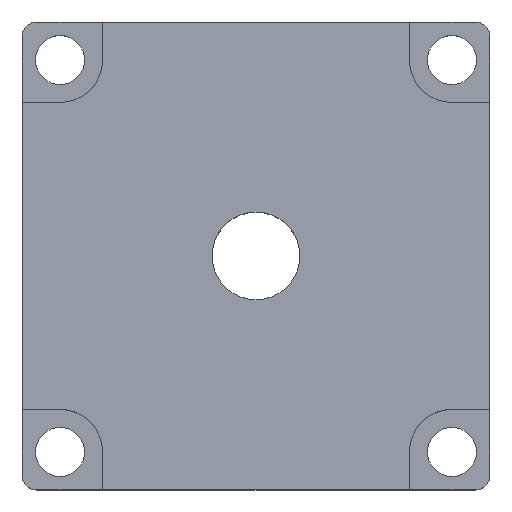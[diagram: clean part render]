
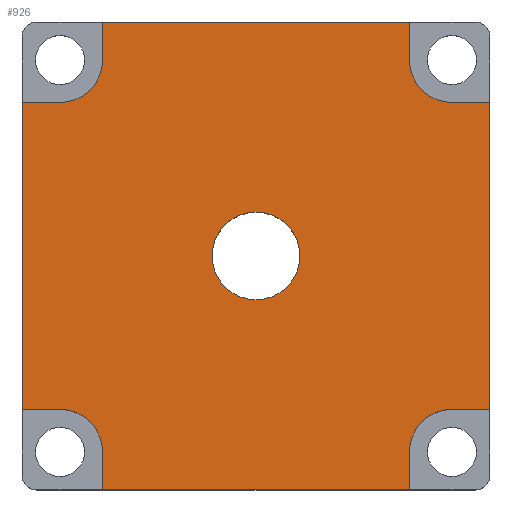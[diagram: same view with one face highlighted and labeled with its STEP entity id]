
A CAD part, top view. The second image highlights one B-rep face of the part: STEP entity #926.
In plain terms, the highlighted planar face has unit normal (0, 0, 1).
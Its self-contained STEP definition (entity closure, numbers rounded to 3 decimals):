
#8 = DIRECTION ( 'NONE',  ( -1., 0., 0. ) ) ;
#22 = ORIENTED_EDGE ( 'NONE', *, *, #400, .T. ) ;
#30 = LINE ( 'NONE', #171, #246 ) ;
#45 = LINE ( 'NONE', #1057, #393 ) ;
#51 = DIRECTION ( 'NONE',  ( -1., 0., 0. ) ) ;
#54 = AXIS2_PLACEMENT_3D ( 'NONE', #843, #846, #948 ) ;
#59 = ORIENTED_EDGE ( 'NONE', *, *, #1032, .F. ) ;
#68 = EDGE_CURVE ( 'NONE', #1224, #591, #1087, .T. ) ;
#69 = LINE ( 'NONE', #486, #923 ) ;
#73 = DIRECTION ( 'NONE',  ( 0., 0., -1. ) ) ;
#103 = ORIENTED_EDGE ( 'NONE', *, *, #575, .T. ) ;
#113 = CARTESIAN_POINT ( 'NONE',  ( 27., 32., 7. ) ) ;
#155 = VERTEX_POINT ( 'NONE', #442 ) ;
#158 = VERTEX_POINT ( 'NONE', #724 ) ;
#171 = CARTESIAN_POINT ( 'NONE',  ( 0., 2., 7. ) ) ;
#179 = CIRCLE ( 'NONE', #351, 5.786 ) ;
#181 = EDGE_CURVE ( 'NONE', #238, #617, #258, .T. ) ;
#190 = ORIENTED_EDGE ( 'NONE', *, *, #928, .T. ) ;
#191 = CARTESIAN_POINT ( 'NONE',  ( 42., 5.214, 7. ) ) ;
#205 = ORIENTED_EDGE ( 'NONE', *, *, #1157, .F. ) ;
#211 = EDGE_CURVE ( 'NONE', #406, #844, #906, .T. ) ;
#223 = VERTEX_POINT ( 'NONE', #324 ) ;
#233 = EDGE_CURVE ( 'NONE', #482, #1067, #640, .T. ) ;
#238 = VERTEX_POINT ( 'NONE', #239 ) ;
#239 = CARTESIAN_POINT ( 'NONE',  ( 53., 53., 7. ) ) ;
#241 = EDGE_LOOP ( 'NONE', ( #103, #765 ) ) ;
#245 = CARTESIAN_POINT ( 'NONE',  ( -11., 2., 7. ) ) ;
#246 = VECTOR ( 'NONE', #833, 1000. ) ;
#258 = LINE ( 'NONE', #1113, #344 ) ;
#274 = CARTESIAN_POINT ( 'NONE',  ( -5.786, 11., 7. ) ) ;
#283 = EDGE_CURVE ( 'NONE', #223, #309, #69, .T. ) ;
#284 = VECTOR ( 'NONE', #497, 1000. ) ;
#298 = DIRECTION ( 'NONE',  ( 1., 0., 0. ) ) ;
#309 = VERTEX_POINT ( 'NONE', #274 ) ;
#312 = AXIS2_PLACEMENT_3D ( 'NONE', #245, #644, #924 ) ;
#324 = CARTESIAN_POINT ( 'NONE',  ( -11., 11., 7. ) ) ;
#328 = ORIENTED_EDGE ( 'NONE', *, *, #695, .F. ) ;
#344 = VECTOR ( 'NONE', #51, 1000. ) ;
#351 = AXIS2_PLACEMENT_3D ( 'NONE', #385, #686, #8 ) ;
#376 = DIRECTION ( 'NONE',  ( 0., 0., -1. ) ) ;
#385 = CARTESIAN_POINT ( 'NONE',  ( 47.786, 5.214, 7. ) ) ;
#390 = ORIENTED_EDGE ( 'NONE', *, *, #233, .T. ) ;
#391 = CARTESIAN_POINT ( 'NONE',  ( 0., 0., 7. ) ) ;
#393 = VECTOR ( 'NONE', #769, 1000. ) ;
#397 = CARTESIAN_POINT ( 'NONE',  ( -11., 11., 7. ) ) ;
#400 = EDGE_CURVE ( 'NONE', #309, #158, #679, .T. ) ;
#401 = AXIS2_PLACEMENT_3D ( 'NONE', #693, #1173, #496 ) ;
#403 = CARTESIAN_POINT ( 'NONE',  ( 47.786, 11., 7. ) ) ;
#406 = VERTEX_POINT ( 'NONE', #1248 ) ;
#420 = VECTOR ( 'NONE', #1008, 1000. ) ;
#427 = CIRCLE ( 'NONE', #528, 6. ) ;
#436 = CARTESIAN_POINT ( 'NONE',  ( 42., 2., 7. ) ) ;
#442 = CARTESIAN_POINT ( 'NONE',  ( 42., 58.786, 7. ) ) ;
#450 = CARTESIAN_POINT ( 'NONE',  ( 21., 32., 7. ) ) ;
#452 = EDGE_CURVE ( 'NONE', #155, #471, #899, .T. ) ;
#470 = CARTESIAN_POINT ( 'NONE',  ( -5.786, 53., 7. ) ) ;
#471 = VERTEX_POINT ( 'NONE', #1031 ) ;
#478 = EDGE_LOOP ( 'NONE', ( #190, #557, #849, #1192, #574, #205, #1083, #791, #647, #328, #1101, #485, #390, #59, #1084, #22 ) ) ;
#482 = VERTEX_POINT ( 'NONE', #470 ) ;
#485 = ORIENTED_EDGE ( 'NONE', *, *, #551, .T. ) ;
#486 = CARTESIAN_POINT ( 'NONE',  ( -11., 11., 7. ) ) ;
#495 = DIRECTION ( 'NONE',  ( -1., 0., 0. ) ) ;
#496 = DIRECTION ( 'NONE',  ( -1., 0., 0. ) ) ;
#497 = DIRECTION ( 'NONE',  ( -1., 0., 0. ) ) ;
#504 = DIRECTION ( 'NONE',  ( 1., 0., 0. ) ) ;
#528 = AXIS2_PLACEMENT_3D ( 'NONE', #450, #73, #1125 ) ;
#534 = VECTOR ( 'NONE', #504, 1000. ) ;
#544 = CARTESIAN_POINT ( 'NONE',  ( 53., 11., 7. ) ) ;
#551 = EDGE_CURVE ( 'NONE', #844, #482, #604, .T. ) ;
#556 = CIRCLE ( 'NONE', #652, 5.786 ) ;
#557 = ORIENTED_EDGE ( 'NONE', *, *, #68, .F. ) ;
#571 = VECTOR ( 'NONE', #298, 1000. ) ;
#572 = VERTEX_POINT ( 'NONE', #544 ) ;
#574 = ORIENTED_EDGE ( 'NONE', *, *, #753, .T. ) ;
#575 = EDGE_CURVE ( 'NONE', #1000, #799, #427, .T. ) ;
#577 = DIRECTION ( 'NONE',  ( -1., 0., 0. ) ) ;
#583 = DIRECTION ( 'NONE',  ( 0., 0., -1. ) ) ;
#591 = VERTEX_POINT ( 'NONE', #391 ) ;
#604 = CIRCLE ( 'NONE', #54, 5.786 ) ;
#617 = VERTEX_POINT ( 'NONE', #1061 ) ;
#640 = LINE ( 'NONE', #814, #420 ) ;
#644 = DIRECTION ( 'NONE',  ( 0., 0., 1. ) ) ;
#647 = ORIENTED_EDGE ( 'NONE', *, *, #452, .T. ) ;
#652 = AXIS2_PLACEMENT_3D ( 'NONE', #670, #376, #577 ) ;
#669 = VERTEX_POINT ( 'NONE', #403 ) ;
#670 = CARTESIAN_POINT ( 'NONE',  ( 47.786, 58.786, 7. ) ) ;
#677 = CARTESIAN_POINT ( 'NONE',  ( -11., 53., 7. ) ) ;
#679 = CIRCLE ( 'NONE', #401, 5.786 ) ;
#686 = DIRECTION ( 'NONE',  ( 0., 0., -1. ) ) ;
#693 = CARTESIAN_POINT ( 'NONE',  ( -5.786, 5.214, 7. ) ) ;
#695 = EDGE_CURVE ( 'NONE', #406, #471, #818, .T. ) ;
#697 = CARTESIAN_POINT ( 'NONE',  ( -9., 64., 7. ) ) ;
#706 = VECTOR ( 'NONE', #1209, 1000. ) ;
#710 = AXIS2_PLACEMENT_3D ( 'NONE', #1158, #583, #495 ) ;
#724 = CARTESIAN_POINT ( 'NONE',  ( 0., 5.214, 7. ) ) ;
#753 = EDGE_CURVE ( 'NONE', #669, #572, #777, .T. ) ;
#755 = CARTESIAN_POINT ( 'NONE',  ( 42., 2., 7. ) ) ;
#765 = ORIENTED_EDGE ( 'NONE', *, *, #1189, .T. ) ;
#769 = DIRECTION ( 'NONE',  ( 0., -1., 0. ) ) ;
#777 = LINE ( 'NONE', #397, #534 ) ;
#784 = CIRCLE ( 'NONE', #710, 6. ) ;
#789 = FACE_OUTER_BOUND ( 'NONE', #478, .T. ) ;
#791 = ORIENTED_EDGE ( 'NONE', *, *, #1025, .T. ) ;
#799 = VERTEX_POINT ( 'NONE', #113 ) ;
#803 = LINE ( 'NONE', #956, #1089 ) ;
#806 = CARTESIAN_POINT ( 'NONE',  ( 0., 2., 7. ) ) ;
#809 = EDGE_CURVE ( 'NONE', #1224, #1024, #1035, .T. ) ;
#814 = CARTESIAN_POINT ( 'NONE',  ( -11., 53., 7. ) ) ;
#818 = LINE ( 'NONE', #697, #571 ) ;
#823 = PLANE ( 'NONE',  #312 ) ;
#833 = DIRECTION ( 'NONE',  ( 0., -1., 0. ) ) ;
#843 = CARTESIAN_POINT ( 'NONE',  ( -5.786, 58.786, 7. ) ) ;
#844 = VERTEX_POINT ( 'NONE', #1208 ) ;
#846 = DIRECTION ( 'NONE',  ( 0., 0., -1. ) ) ;
#849 = ORIENTED_EDGE ( 'NONE', *, *, #809, .T. ) ;
#869 = VECTOR ( 'NONE', #949, 1000. ) ;
#886 = CARTESIAN_POINT ( 'NONE',  ( 51., 0., 7. ) ) ;
#899 = LINE ( 'NONE', #755, #869 ) ;
#906 = LINE ( 'NONE', #806, #706 ) ;
#923 = VECTOR ( 'NONE', #972, 1000. ) ;
#924 = DIRECTION ( 'NONE',  ( 1., 0., 0. ) ) ;
#926 = ADVANCED_FACE ( 'NONE', ( #789, #1215 ), #823, .T. ) ;
#928 = EDGE_CURVE ( 'NONE', #158, #591, #30, .T. ) ;
#948 = DIRECTION ( 'NONE',  ( -1., 0., 0. ) ) ;
#949 = DIRECTION ( 'NONE',  ( 0., 1., 0. ) ) ;
#956 = CARTESIAN_POINT ( 'NONE',  ( -11., 2., 7. ) ) ;
#972 = DIRECTION ( 'NONE',  ( 1., 0., 0. ) ) ;
#1000 = VERTEX_POINT ( 'NONE', #1155 ) ;
#1008 = DIRECTION ( 'NONE',  ( -1., 0., 0. ) ) ;
#1020 = DIRECTION ( 'NONE',  ( 0., 1., 0. ) ) ;
#1024 = VERTEX_POINT ( 'NONE', #191 ) ;
#1025 = EDGE_CURVE ( 'NONE', #617, #155, #556, .T. ) ;
#1031 = CARTESIAN_POINT ( 'NONE',  ( 42., 64., 7. ) ) ;
#1032 = EDGE_CURVE ( 'NONE', #223, #1067, #803, .T. ) ;
#1035 = LINE ( 'NONE', #436, #1105 ) ;
#1040 = DIRECTION ( 'NONE',  ( 0., 1., 0. ) ) ;
#1057 = CARTESIAN_POINT ( 'NONE',  ( 53., 62., 7. ) ) ;
#1061 = CARTESIAN_POINT ( 'NONE',  ( 47.786, 53., 7. ) ) ;
#1067 = VERTEX_POINT ( 'NONE', #677 ) ;
#1083 = ORIENTED_EDGE ( 'NONE', *, *, #181, .T. ) ;
#1084 = ORIENTED_EDGE ( 'NONE', *, *, #283, .T. ) ;
#1087 = LINE ( 'NONE', #886, #284 ) ;
#1089 = VECTOR ( 'NONE', #1040, 1000. ) ;
#1101 = ORIENTED_EDGE ( 'NONE', *, *, #211, .T. ) ;
#1105 = VECTOR ( 'NONE', #1020, 1000. ) ;
#1113 = CARTESIAN_POINT ( 'NONE',  ( -11., 53., 7. ) ) ;
#1121 = CARTESIAN_POINT ( 'NONE',  ( 42., 0., 7. ) ) ;
#1125 = DIRECTION ( 'NONE',  ( -1., 0., 0. ) ) ;
#1131 = EDGE_CURVE ( 'NONE', #1024, #669, #179, .T. ) ;
#1155 = CARTESIAN_POINT ( 'NONE',  ( 15., 32., 7. ) ) ;
#1157 = EDGE_CURVE ( 'NONE', #238, #572, #45, .T. ) ;
#1158 = CARTESIAN_POINT ( 'NONE',  ( 21., 32., 7. ) ) ;
#1173 = DIRECTION ( 'NONE',  ( 0., 0., -1. ) ) ;
#1189 = EDGE_CURVE ( 'NONE', #799, #1000, #784, .T. ) ;
#1192 = ORIENTED_EDGE ( 'NONE', *, *, #1131, .T. ) ;
#1208 = CARTESIAN_POINT ( 'NONE',  ( 0., 58.786, 7. ) ) ;
#1209 = DIRECTION ( 'NONE',  ( 0., -1., 0. ) ) ;
#1215 = FACE_BOUND ( 'NONE', #241, .T. ) ;
#1224 = VERTEX_POINT ( 'NONE', #1121 ) ;
#1248 = CARTESIAN_POINT ( 'NONE',  ( 0., 64., 7. ) ) ;
